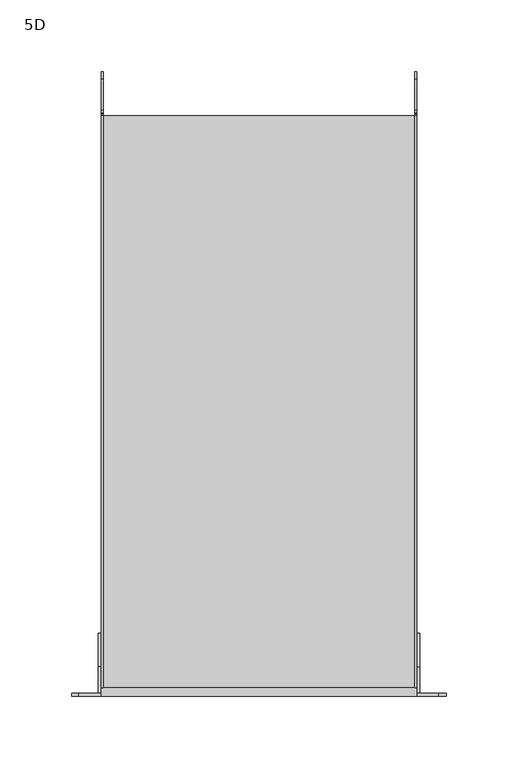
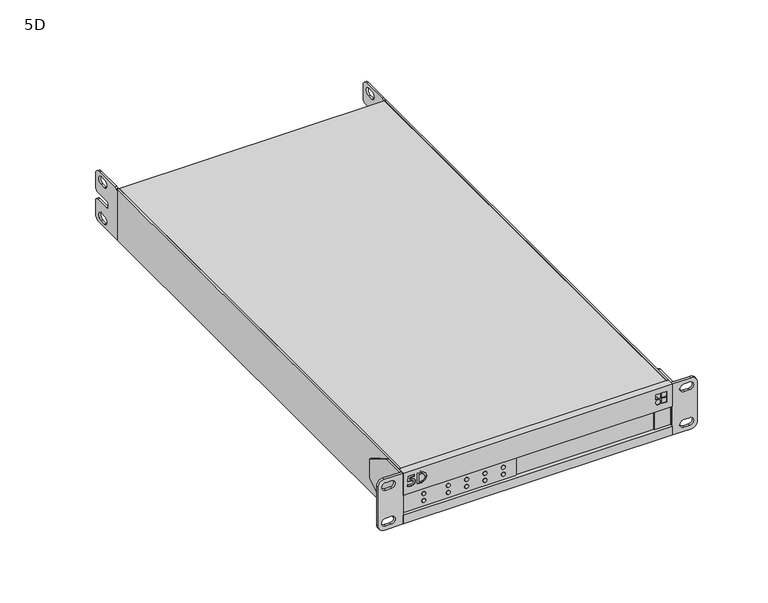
"""IFC4 building model written with IfcOpenShell, lengths in millimetres: proxy geometry, d&b 5D Amplifier : 5D."""

from ifc_helpers import new_model, si_unit, point, frame, frame_2d, origin, origin_with_axes, place, context, project, spatial, polyline, circle_curve, trimmed, segment, composite_curve, outline, extrude, source, transform, mapped, element, save
from ifc_brep_helpers import plane_surface, cylinder_surface, revolved_surface, advanced_brep


def proxy_5d_ee4fdd6d(model_context):
    return source(origin(), model_context, "Body", "SolidModel", [
        extrude(outline(composite_curve([segment(polyline([(185.5829535, 43.9406488), (207.5499232, 43.9406488)]), True, "CONTINUOUS"), segment(trimmed(circle_curve(frame_2d((207.5499232, 38.9406488)), 5.0), [point((207.5499232, 43.9406488))], [point((212.5499232, 38.9406488))], False, "CARTESIAN"), True, "CONTINUOUS"), segment(polyline([(212.5499232, 38.9406488), (212.5499232, 28.0)]), True, "CONTINUOUS"), segment(trimmed(circle_curve(frame_2d((209.5499232, 28.0)), 3.0), [point((212.5499232, 28.0))], [point((209.5499232, 25.0))], False, "CARTESIAN"), True, "CONTINUOUS"), segment(polyline([(209.5499232, 25.0), (197.5499232, 25.0)]), True, "CONTINUOUS"), segment(trimmed(circle_curve(frame_2d((197.5499232, 22.0)), 3.0), [point((197.5499232, 25.0))], [point((197.5499232, 19.0))], True, "CARTESIAN"), True, "CONTINUOUS"), segment(polyline([(197.5499232, 19.0), (209.5499232, 19.0)]), True, "CONTINUOUS"), segment(trimmed(circle_curve(frame_2d((209.5499232, 16.0)), 3.0), [point((209.5499232, 19.0))], [point((212.5499232, 16.0))], False, "CARTESIAN"), True, "CONTINUOUS"), segment(polyline([(212.5499232, 16.0), (212.5499232, 5.0)]), True, "CONTINUOUS"), segment(trimmed(circle_curve(frame_2d((207.5499232, 5.0)), 5.0), [point((212.5499232, 5.0))], [point((207.5499232, 0.0))], False, "CARTESIAN"), True, "CONTINUOUS"), segment(polyline([(207.5499232, 0.0), (182.0499232, 0.0), (182.0499232, 42.7406488), (183.1829535, 42.7406488)]), True, "CONTINUOUS"), segment(trimmed(circle_curve(frame_2d((183.1829535, 43.7406488)), 1.0), [point((183.1829535, 42.7406488))], [point((183.9829535, 43.1406488))], True, "CARTESIAN"), True, "CONTINUOUS"), segment(trimmed(circle_curve(frame_2d((185.5829535, 41.9406488)), 2.0), [point((183.9829535, 43.1406488))], [point((185.5829535, 43.9406488))], False, "CARTESIAN"), True, "CONTINUOUS")], self_intersect=False), holes=[composite_curve([segment(trimmed(circle_curve(frame_2d((204.7999232, 6.25)), 3.25), [point((204.7999232, 3.0))], [point((204.7999232, 9.5))], True, "CARTESIAN"), True, "CONTINUOUS"), segment(polyline([(204.7999232, 9.5), (200.2999232, 9.5)]), True, "CONTINUOUS"), segment(trimmed(circle_curve(frame_2d((200.2999232, 6.25)), 3.25), [point((200.2999232, 9.5))], [point((200.2999232, 3.0))], True, "CARTESIAN"), True, "CONTINUOUS"), segment(polyline([(200.2999232, 3.0), (204.7999232, 3.0)]), True, "CONTINUOUS")], self_intersect=False), composite_curve([segment(trimmed(circle_curve(frame_2d((200.2999232, 37.75)), 3.25), [point((200.2999232, 41.0))], [point((200.2999232, 34.5))], True, "CARTESIAN"), True, "CONTINUOUS"), segment(polyline([(200.2999232, 34.5), (204.7999232, 34.5)]), True, "CONTINUOUS"), segment(trimmed(circle_curve(frame_2d((204.7999232, 37.75)), 3.25), [point((204.7999232, 34.5))], [point((204.7999232, 41.0))], True, "CARTESIAN"), True, "CONTINUOUS"), segment(polyline([(204.7999232, 41.0), (200.2999232, 41.0)]), True, "CONTINUOUS")], self_intersect=False)]), frame((-2.883647, 0.0, 0.0), z_axis=(1.0, 0.0, 0.0), x_axis=(0.0, 1.0, 0.0)), (0.0, 0.0, 1.0), 1.5),
        extrude(outline(composite_curve([segment(polyline([(185.5829535, 43.9406488), (207.5499232, 43.9406488)]), True, "CONTINUOUS"), segment(trimmed(circle_curve(frame_2d((207.5499232, 38.9406488)), 5.0), [point((207.5499232, 43.9406488))], [point((212.5499232, 38.9406488))], False, "CARTESIAN"), True, "CONTINUOUS"), segment(polyline([(212.5499232, 38.9406488), (212.5499232, 28.0)]), True, "CONTINUOUS"), segment(trimmed(circle_curve(frame_2d((209.5499232, 28.0)), 3.0), [point((212.5499232, 28.0))], [point((209.5499232, 25.0))], False, "CARTESIAN"), True, "CONTINUOUS"), segment(polyline([(209.5499232, 25.0), (197.5499232, 25.0)]), True, "CONTINUOUS"), segment(trimmed(circle_curve(frame_2d((197.5499232, 22.0)), 3.0), [point((197.5499232, 25.0))], [point((197.5499232, 19.0))], True, "CARTESIAN"), True, "CONTINUOUS"), segment(polyline([(197.5499232, 19.0), (209.5499232, 19.0)]), True, "CONTINUOUS"), segment(trimmed(circle_curve(frame_2d((209.5499232, 16.0)), 3.0), [point((209.5499232, 19.0))], [point((212.5499232, 16.0))], False, "CARTESIAN"), True, "CONTINUOUS"), segment(polyline([(212.5499232, 16.0), (212.5499232, 5.0)]), True, "CONTINUOUS"), segment(trimmed(circle_curve(frame_2d((207.5499232, 5.0)), 5.0), [point((212.5499232, 5.0))], [point((207.5499232, 0.0))], False, "CARTESIAN"), True, "CONTINUOUS"), segment(polyline([(207.5499232, 0.0), (182.0499232, 0.0), (182.0499232, 42.7406488), (183.1829535, 42.7406488)]), True, "CONTINUOUS"), segment(trimmed(circle_curve(frame_2d((183.1829535, 43.7406488)), 1.0), [point((183.1829535, 42.7406488))], [point((183.9829535, 43.1406488))], True, "CARTESIAN"), True, "CONTINUOUS"), segment(trimmed(circle_curve(frame_2d((185.5829535, 41.9406488)), 2.0), [point((183.9829535, 43.1406488))], [point((185.5829535, 43.9406488))], False, "CARTESIAN"), True, "CONTINUOUS")], self_intersect=False), holes=[composite_curve([segment(trimmed(circle_curve(frame_2d((204.7999232, 6.25)), 3.25), [point((204.7999232, 3.0))], [point((204.7999232, 9.5))], True, "CARTESIAN"), True, "CONTINUOUS"), segment(polyline([(204.7999232, 9.5), (200.2999232, 9.5)]), True, "CONTINUOUS"), segment(trimmed(circle_curve(frame_2d((200.2999232, 6.25)), 3.25), [point((200.2999232, 9.5))], [point((200.2999232, 3.0))], True, "CARTESIAN"), True, "CONTINUOUS"), segment(polyline([(200.2999232, 3.0), (204.7999232, 3.0)]), True, "CONTINUOUS")], self_intersect=False), composite_curve([segment(trimmed(circle_curve(frame_2d((200.2999232, 37.75)), 3.25), [point((200.2999232, 41.0))], [point((200.2999232, 34.5))], True, "CARTESIAN"), True, "CONTINUOUS"), segment(polyline([(200.2999232, 34.5), (204.7999232, 34.5)]), True, "CONTINUOUS"), segment(trimmed(circle_curve(frame_2d((204.7999232, 37.75)), 3.25), [point((204.7999232, 34.5))], [point((204.7999232, 41.0))], True, "CARTESIAN"), True, "CONTINUOUS"), segment(polyline([(204.7999232, 41.0), (200.2999232, 41.0)]), True, "CONTINUOUS")], self_intersect=False)]), frame((-221.330704, 0.0, 0.0), z_axis=(1.0, 0.0, 0.0), x_axis=(0.0, 1.0, 0.0)), (0.0, 0.0, 1.0), 1.5),
        extrude(outline(polyline([(-14.8641212, -216.4500768), (-14.8641212, -218.9005113), (-127.4848246, -218.9005113), (-127.4848246, -216.4500768), (-14.8641212, -216.4500768)])), frame((0.0, 0.0, 7.4401156), z_axis=(0.0, 0.0, 1.0), x_axis=(1.0, 0.0, 0.0)), (0.0, 0.0, 1.0), 17.1349724),
        extrude(outline(polyline([(-219.830704, 182.0499232), (-219.830704, -216.4500768), (-221.330704, -216.4500768), (-221.330704, 182.0499232), (-219.830704, 182.0499232)])), origin_with_axes(), (0.0, 0.0, 1.0), 43.9406488),
        extrude(outline(polyline([(-1.383647, 182.0499232), (-1.383647, -216.4500768), (-2.883647, -216.4500768), (-2.883647, 182.0499232), (-1.383647, 182.0499232)])), origin_with_axes(), (0.0, 0.0, 1.0), 43.9406488),
        advanced_brep(
        [(-1.383647, -222.4500768, 7.4401156), (-1.383647, -222.4500768, 0.0), (-1.383647, -216.4500768, 0.0), (-1.383647, -216.4500768, 43.9406488), (-1.383647, -222.4500768, 43.9406488), (-1.383647, -222.4500768, 24.5750881), (-1.383647, -219.9500768, 24.5750881), (-1.383647, -219.9500768, 7.4401156), (-221.330704, -222.4500768, 43.9406488), (-221.330704, -216.4500768, 43.9406488), (-221.330704, -216.4500768, 24.5750881), (-221.330704, -222.4500768, 24.5750881), (-221.330704, -222.4500768, 7.4401156), (-221.330704, -216.4500768, 7.4401156), (-221.330704, -216.4500768, 0.0), (-221.330704, -222.4500768, 0.0), (-14.8641212, -216.4500768, 7.4401156), (-14.8641212, -216.4500768, 24.5750881), (-209.7824127, -222.4500768, 39.5054393), (-206.5190145, -222.4500768, 39.5054393), (-206.5190145, -222.4500768, 30.5405362), (-209.7824127, -222.4500768, 30.5405362), (-217.0026684, -222.4500768, 39.5054393), (-212.1114808, -222.4500768, 39.5054393), (-212.1114808, -222.4500768, 38.0155348), (-215.6272884, -222.4500768, 38.0155348), (-215.7635554, -222.4500768, 36.4579961), (-214.2558866, -222.4500768, 36.4579961), (-213.19435, -222.4500768, 30.9129936), (-217.7386054, -222.4500768, 31.0936409), (-217.5942324, -222.4500768, 32.7438318), (-213.7483664, -222.4500768, 32.3069326), (-214.2558866, -222.4500768, 34.9579961), (-217.4005181, -222.4500768, 34.9579961), (-15.0897549, -222.4500768, 39.3082376), (-10.8402378, -222.4500768, 39.3082376), (-10.8402378, -222.4500768, 35.0587206), (-15.0897549, -222.4500768, 35.0587206), (-10.233164, -222.4500768, 39.3082376), (-5.983647, -222.4500768, 39.3082376), (-5.983647, -222.4500768, 35.0587206), (-10.233164, -222.4500768, 35.0587206), (-10.233164, -222.4500768, 34.4516467), (-5.983647, -222.4500768, 34.4516467), (-5.983647, -222.4500768, 30.2021297), (-10.233164, -222.4500768, 30.2021297), (-12.9649964, -222.4500768, 34.4516467), (-12.9649964, -222.4500768, 30.2021297), (-208.2824127, -222.4500768, 32.0405362), (-206.5190145, -222.4500768, 32.0405362), (-206.5190145, -222.4500768, 38.0054393), (-208.2824127, -222.4500768, 38.0054393), (-14.8641212, -219.9500768, 24.5750881), (-14.8641212, -219.9500768, 7.4401156), (-206.5190145, -217.4500768, 39.5054393), (-209.7824127, -217.4500768, 39.5054393), (-209.7824127, -217.4500768, 30.5405362), (-206.5190145, -217.4500768, 30.5405362), (-206.5190145, -217.4500768, 32.0405362), (-208.2824127, -217.4500768, 32.0405362), (-208.2824127, -217.4500768, 38.0054393), (-206.5190145, -217.4500768, 38.0054393), (-212.1114808, -217.4500768, 39.5054393), (-217.0026684, -217.4500768, 39.5054393), (-217.4005181, -217.4500768, 34.9579961), (-214.2558866, -217.4500768, 34.9579961), (-213.7483664, -217.4500768, 32.3069326), (-217.5942324, -217.4500768, 32.7438318), (-217.7386054, -217.4500768, 31.0936409), (-213.19435, -217.4500768, 30.9129936), (-214.2558866, -217.4500768, 36.4579961), (-215.7635554, -217.4500768, 36.4579961), (-215.6272884, -217.4500768, 38.0155348), (-212.1114808, -217.4500768, 38.0155348), (-10.8402378, -217.4500768, 39.3082376), (-15.0897549, -217.4500768, 39.3082376), (-15.0897549, -217.4500768, 35.0587206), (-10.8402378, -217.4500768, 35.0587206), (-5.983647, -217.4500768, 39.3082376), (-10.233164, -217.4500768, 39.3082376), (-10.233164, -217.4500768, 35.0587206), (-5.983647, -217.4500768, 35.0587206), (-5.983647, -217.4500768, 34.4516467), (-10.233164, -217.4500768, 34.4516467), (-10.233164, -217.4500768, 30.2021297), (-5.983647, -217.4500768, 30.2021297), (-12.9649964, -217.4500768, 30.2021297), (-12.9649964, -217.4500768, 34.4516467)],
        [
            (0, 1),
            (1, 2),
            (2, 3),
            (3, 4),
            (4, 5),
            (5, 6),
            (6, 7),
            (7, 0),
            (8, 9),
            (9, 10),
            (10, 11),
            (11, 8),
            (12, 13),
            (13, 14),
            (14, 15),
            (15, 12),
            (0, 12),
            (15, 1),
            (14, 2),
            (13, 16),
            (16, 17),
            (17, 10),
            (9, 3),
            (8, 4),
            (11, 5),
            (18, 19),
            (19, 20, circle_curve(frame((-206.5190145, -222.4500768, 35.0229877), z_axis=(0.0, 1.0, 0.0), x_axis=(1.0, 0.0, 0.0)), 4.4824516)),
            (20, 21),
            (21, 18),
            (22, 23),
            (23, 24),
            (24, 25),
            (25, 26),
            (26, 27),
            (27, 28, circle_curve(frame((-214.2558866, -222.4500768, 33.5838844), z_axis=(0.0, 1.0, 0.0), x_axis=(1.0, 0.0, 0.0)), 2.8741117)),
            (28, 29, circle_curve(frame((-215.2631459, -222.4500768, 36.11821), z_axis=(0.0, 1.0, 0.0), x_axis=(1.0, 0.0, 0.0)), 5.6012672)),
            (29, 30),
            (30, 31, circle_curve(frame((-215.2631459, -222.4500768, 36.11821), z_axis=(0.0, -1.0, 0.0), x_axis=(1.0, 0.0, 0.0)), 4.1012672)),
            (31, 32, circle_curve(frame((-214.2558866, -222.4500768, 33.5838844), z_axis=(0.0, -1.0, 0.0), x_axis=(1.0, 0.0, 0.0)), 1.3741117)),
            (32, 33),
            (33, 22),
            (34, 35),
            (35, 36),
            (36, 37),
            (37, 34),
            (38, 39),
            (39, 40),
            (40, 41),
            (41, 38),
            (42, 43),
            (43, 44),
            (44, 45),
            (45, 42),
            (46, 47, circle_curve(frame((-12.9649964, -222.4500768, 32.3268882), z_axis=(0.0, 1.0, 0.0), x_axis=(0.0, 0.0, 1.0)), 2.1247585)),
            (47, 46, circle_curve(frame((-12.9649964, -222.4500768, 32.3268882), z_axis=(0.0, 1.0, 0.0), x_axis=(0.0, 0.0, 1.0)), 2.1247585)),
            (48, 49),
            (49, 50, circle_curve(frame((-206.5190145, -222.4500768, 35.0229877), z_axis=(0.0, -1.0, 0.0), x_axis=(1.0, 0.0, 0.0)), 2.9824516)),
            (50, 51),
            (51, 48),
            (17, 52),
            (52, 6),
            (7, 53),
            (53, 16),
            (53, 52),
            (54, 55),
            (55, 56),
            (56, 57),
            (57, 54, circle_curve(frame((-206.5190145, -217.4500768, 35.0229877), z_axis=(0.0, -1.0, 0.0), x_axis=(1.0, 0.0, 0.0)), 4.4824516)),
            (58, 59),
            (59, 60),
            (60, 61),
            (61, 58, circle_curve(frame((-206.5190145, -217.4500768, 35.0229877), z_axis=(0.0, 1.0, 0.0), x_axis=(1.0, 0.0, 0.0)), 2.9824516)),
            (62, 63),
            (63, 64),
            (64, 65),
            (65, 66, circle_curve(frame((-214.2558866, -217.4500768, 33.5838844), z_axis=(0.0, 1.0, 0.0), x_axis=(1.0, 0.0, 0.0)), 1.3741117)),
            (66, 67, circle_curve(frame((-215.2631459, -217.4500768, 36.11821), z_axis=(0.0, 1.0, 0.0), x_axis=(1.0, 0.0, 0.0)), 4.1012672)),
            (67, 68),
            (68, 69, circle_curve(frame((-215.2631459, -217.4500768, 36.11821), z_axis=(0.0, -1.0, 0.0), x_axis=(1.0, 0.0, 0.0)), 5.6012672)),
            (69, 70, circle_curve(frame((-214.2558866, -217.4500768, 33.5838844), z_axis=(0.0, -1.0, 0.0), x_axis=(1.0, 0.0, 0.0)), 2.8741117)),
            (70, 71),
            (71, 72),
            (72, 73),
            (73, 62),
            (74, 75),
            (75, 76),
            (76, 77),
            (77, 74),
            (78, 79),
            (79, 80),
            (80, 81),
            (81, 78),
            (82, 83),
            (83, 84),
            (84, 85),
            (85, 82),
            (86, 87, circle_curve(frame((-12.9649964, -217.4500768, 32.3268882), z_axis=(0.0, -1.0, 0.0), x_axis=(0.0, 0.0, 1.0)), 2.1247585)),
            (87, 86, circle_curve(frame((-12.9649964, -217.4500768, 32.3268882), z_axis=(0.0, -1.0, 0.0), x_axis=(0.0, 0.0, 1.0)), 2.1247585)),
            (54, 19),
            (18, 55),
            (21, 56),
            (20, 57),
            (58, 49),
            (48, 59),
            (51, 60),
            (50, 61),
            (62, 23),
            (22, 63),
            (33, 64),
            (32, 65),
            (31, 66),
            (30, 67),
            (29, 68),
            (28, 69),
            (27, 70),
            (26, 71),
            (25, 72),
            (24, 73),
            (74, 35),
            (34, 75),
            (37, 76),
            (36, 77),
            (78, 39),
            (38, 79),
            (41, 80),
            (40, 81),
            (82, 43),
            (42, 83),
            (45, 84),
            (44, 85),
            (86, 47),
            (46, 87),
        ],
        [
            plane_surface(frame((-1.383647, -222.4500768, -304.8), z_axis=(1.0, 0.0, 0.0), x_axis=(0.0, 0.0, -1.0))),
            plane_surface(frame((-221.330704, -222.4500768, -304.8), z_axis=(-1.0, 0.0, 0.0), x_axis=(0.0, 0.0, 1.0))),
            plane_surface(frame((-1.383647, -222.4500768, 7.4401156), z_axis=(0.0, -1.0, 0.0), x_axis=(-1.0, 0.0, 0.0))),
            plane_surface(frame((-1.383647, -222.4500768, 0.0), z_axis=(0.0, 0.0, -1.0), x_axis=(-1.0, 0.0, 0.0))),
            plane_surface(frame((-1.383647, -216.4500768, 24.5750881), z_axis=(0.0, 1.0, 0.0), x_axis=(-1.0, 0.0, 0.0))),
            plane_surface(frame((-1.383647, -216.4500768, 43.9406488), z_axis=(0.0, 0.0, 1.0), x_axis=(-1.0, 0.0, 0.0))),
            plane_surface(frame((-1.383647, -222.4500768, 43.9406488), z_axis=(0.0, -1.0, 0.0), x_axis=(-1.0, 0.0, 0.0))),
            plane_surface(frame((-1.383647, -222.4500768, 24.5750881), z_axis=(0.0, 0.0, -1.0), x_axis=(-1.0, 0.0, 0.0))),
            plane_surface(frame((-1.383647, -216.4500768, 7.4401156), z_axis=(0.0, 0.0, 1.0), x_axis=(-1.0, 0.0, 0.0))),
            plane_surface(frame((-14.8641212, -216.4500768, 87.1230012), z_axis=(-1.0, 0.0, 0.0), x_axis=(0.0, 0.0, -1.0))),
            plane_surface(frame((-1.383647, -219.9500768, 24.5750881), z_axis=(0.0, -1.0, 0.0), x_axis=(-1.0, 0.0, 0.0))),
            plane_surface(frame((169.7687193, -217.4500768, 39.3082376), z_axis=(0.0, -1.0, 0.0), x_axis=(1.0, 0.0, 0.0))),
            plane_surface(frame((-206.5190145, -222.4500768, 39.5054393), z_axis=(0.0, 0.0, -1.0), x_axis=(0.0, 1.0, 0.0))),
            plane_surface(frame((-209.7824127, -222.4500768, 39.5054393), z_axis=(1.0, 0.0, 0.0), x_axis=(0.0, 1.0, 0.0))),
            plane_surface(frame((-209.7824127, -222.4500768, 30.5405362), z_axis=(0.0, 0.0, 1.0), x_axis=(0.0, 1.0, 0.0))),
            revolved_surface(polyline([(-202.0365629, -222.4500768, 35.0229877), (-202.0365629, -217.4500768, 35.0229877)]), (-206.5190145, -222.4500768, 35.0229877), (0.0, -1.0, 0.0)),
            plane_surface(frame((-206.5190145, -222.4500768, 32.0405362), z_axis=(0.0, 0.0, -1.0), x_axis=(0.0, 1.0, 0.0))),
            plane_surface(frame((-208.2824127, -222.4500768, 32.0405362), z_axis=(-1.0, 0.0, 0.0), x_axis=(0.0, 1.0, 0.0))),
            plane_surface(frame((-208.2824127, -222.4500768, 38.0054393), z_axis=(0.0, 0.0, 1.0), x_axis=(0.0, 1.0, 0.0))),
            cylinder_surface(frame((-206.5190145, -222.4500768, 35.0229877), z_axis=(0.0, 1.0, 0.0), x_axis=(1.0, 0.0, 0.0)), 2.9824516),
            plane_surface(frame((-212.1114808, -222.4500768, 39.5054393), z_axis=(0.0, 0.0, -1.0), x_axis=(0.0, 1.0, 0.0))),
            plane_surface(frame((-217.0026684, -222.4500768, 39.5054393), z_axis=(0.9961946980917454, 0.0, -0.08715574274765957), x_axis=(0.0, 1.0, 0.0))),
            plane_surface(frame((-217.4005181, -222.4500768, 34.9579961), z_axis=(0.0, 0.0, 1.0), x_axis=(0.0, 1.0, 0.0))),
            cylinder_surface(frame((-214.2558866, -222.4500768, 33.5838844), z_axis=(0.0, 1.0, 0.0), x_axis=(1.0, 0.0, 0.0)), 1.3741117),
            cylinder_surface(frame((-215.2631459, -222.4500768, 36.11821), z_axis=(0.0, 1.0, 0.0), x_axis=(1.0, 0.0, 0.0)), 4.1012672),
            plane_surface(frame((-217.5942324, -222.4500768, 32.7438318), z_axis=(0.996194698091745, 0.0, -0.08715574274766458), x_axis=(0.0, 1.0, 0.0))),
            revolved_surface(polyline([(-209.66187870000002, -222.4500768, 36.11821), (-209.66187870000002, -217.4500768, 36.11821)]), (-215.2631459, -222.4500768, 36.11821), (0.0, -1.0, 0.0)),
            revolved_surface(polyline([(-211.3817749, -222.4500768, 33.5838844), (-211.3817749, -217.4500768, 33.5838844)]), (-214.2558866, -222.4500768, 33.5838844), (0.0, -1.0, 0.0)),
            plane_surface(frame((-214.2558866, -222.4500768, 36.4579961), z_axis=(0.0, 0.0, -1.0), x_axis=(0.0, 1.0, 0.0))),
            plane_surface(frame((-215.7635554, -222.4500768, 36.4579961), z_axis=(-0.9961946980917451, 0.0, 0.08715574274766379), x_axis=(0.0, 1.0, 0.0))),
            plane_surface(frame((-215.6272884, -222.4500768, 38.0155348), z_axis=(0.0, 0.0, 1.0), x_axis=(0.0, 1.0, 0.0))),
            plane_surface(frame((-212.1114808, -222.4500768, 38.0155348), z_axis=(-1.0, 0.0, 0.0), x_axis=(0.0, 1.0, 0.0))),
            plane_surface(frame((-10.8402378, -222.4500768, 39.3082376), z_axis=(0.0, 0.0, -1.0), x_axis=(0.0, 1.0, 0.0))),
            plane_surface(frame((-15.0897549, -222.4500768, 39.3082376), z_axis=(1.0, 0.0, 0.0), x_axis=(0.0, 1.0, 0.0))),
            plane_surface(frame((-15.0897549, -222.4500768, 35.0587206), z_axis=(0.0, 0.0, 1.0), x_axis=(0.0, 1.0, 0.0))),
            plane_surface(frame((-10.8402378, -222.4500768, 35.0587206), z_axis=(-1.0, 0.0, 0.0), x_axis=(0.0, 1.0, 0.0))),
            plane_surface(frame((-5.983647, -222.4500768, 39.3082376), z_axis=(0.0, 0.0, -1.0), x_axis=(0.0, 1.0, 0.0))),
            plane_surface(frame((-10.233164, -222.4500768, 39.3082376), z_axis=(1.0, 0.0, 0.0), x_axis=(0.0, 1.0, 0.0))),
            plane_surface(frame((-10.233164, -222.4500768, 35.0587206), z_axis=(0.0, 0.0, 1.0), x_axis=(0.0, 1.0, 0.0))),
            plane_surface(frame((-5.983647, -222.4500768, 35.0587206), z_axis=(-1.0, 0.0, 0.0), x_axis=(0.0, 1.0, 0.0))),
            plane_surface(frame((-5.983647, -222.4500768, 34.4516467), z_axis=(0.0, 0.0, -1.0), x_axis=(0.0, 1.0, 0.0))),
            plane_surface(frame((-10.233164, -222.4500768, 34.4516467), z_axis=(1.0, 0.0, 0.0), x_axis=(0.0, 1.0, 0.0))),
            plane_surface(frame((-10.233164, -222.4500768, 30.2021297), z_axis=(0.0, 0.0, 1.0), x_axis=(0.0, 1.0, 0.0))),
            plane_surface(frame((-5.983647, -222.4500768, 30.2021297), z_axis=(-1.0, 0.0, 0.0), x_axis=(0.0, 1.0, 0.0))),
            revolved_surface(polyline([(-12.9649964, -222.4500768, 34.4516467), (-12.9649964, -217.4500768, 34.4516467)]), (-12.9649964, -222.4500768, 32.3268882), (0.0, -1.0, 0.0)),
        ],
        [
            (0, [[1, 2, 3, 4, 5, 6, 7, 8]]),
            (1, [[9, 10, 11, 12]]),
            (1, [[13, 14, 15, 16]]),
            (2, [[-1, 17, -16, 18]]),
            (3, [[-2, -18, -15, 19]]),
            (4, [[-3, -19, -14, 20, 21, 22, -10, 23]]),
            (5, [[-4, -23, -9, 24]]),
            (6, [[-5, -24, -12, 25], [26, 27, 28, 29], [30, 31, 32, 33, 34, 35, 36, 37, 38, 39, 40, 41], [42, 43, 44, 45], [46, 47, 48, 49], [50, 51, 52, 53], [54, 55]]),
            (6, [[56, 57, 58, 59]]),
            (7, [[-11, -22, 60, 61, -6, -25]]),
            (8, [[-13, -17, -8, 62, 63, -20]]),
            (9, [[64, -60, -21, -63]]),
            (10, [[-7, -61, -64, -62]]),
            (11, [[65, 66, 67, 68], [69, 70, 71, 72]]),
            (11, [[73, 74, 75, 76, 77, 78, 79, 80, 81, 82, 83, 84]]),
            (11, [[85, 86, 87, 88]]),
            (11, [[89, 90, 91, 92]]),
            (11, [[93, 94, 95, 96]]),
            (11, [[97, 98]]),
            (12, [[-65, 99, -26, 100]]),
            (13, [[-66, -100, -29, 101]]),
            (14, [[-67, -101, -28, 102]]),
            (15, [[-68, -102, -27, -99]]),
            (16, [[-69, 103, -56, 104]]),
            (17, [[-70, -104, -59, 105]]),
            (18, [[-71, -105, -58, 106]]),
            (19, [[-72, -106, -57, -103]]),
            (20, [[-73, 107, -30, 108]]),
            (21, [[-74, -108, -41, 109]]),
            (22, [[-75, -109, -40, 110]]),
            (23, [[-76, -110, -39, 111]]),
            (24, [[-77, -111, -38, 112]]),
            (25, [[-78, -112, -37, 113]]),
            (26, [[-79, -113, -36, 114]]),
            (27, [[-80, -114, -35, 115]]),
            (28, [[-81, -115, -34, 116]]),
            (29, [[-82, -116, -33, 117]]),
            (30, [[-83, -117, -32, 118]]),
            (31, [[-84, -118, -31, -107]]),
            (32, [[-85, 119, -42, 120]]),
            (33, [[-86, -120, -45, 121]]),
            (34, [[-87, -121, -44, 122]]),
            (35, [[-88, -122, -43, -119]]),
            (36, [[-89, 123, -46, 124]]),
            (37, [[-90, -124, -49, 125]]),
            (38, [[-91, -125, -48, 126]]),
            (39, [[-92, -126, -47, -123]]),
            (40, [[-93, 127, -50, 128]]),
            (41, [[-94, -128, -53, 129]]),
            (42, [[-95, -129, -52, 130]]),
            (43, [[-96, -130, -51, -127]]),
            (44, [[-97, 131, -54, 132]]),
            (44, [[-98, -132, -55, -131]]),
        ],
    ),
        extrude(outline(polyline([(-2.883647, 182.0499232), (-2.883647, -216.4500768), (-219.830704, -216.4500768), (-219.830704, 182.0499232), (-2.883647, 182.0499232)])), origin_with_axes(), (0.0, 0.0, 1.0), 43.9406488),
        extrude(outline(composite_curve([segment(polyline([(5.0, 19.0253736), (38.9406488, 19.0253736)]), True, "CONTINUOUS"), segment(trimmed(circle_curve(frame_2d((38.9406488, 14.0253736)), 5.0), [point((38.9406488, 19.0253736))], [point((43.9406488, 14.0253736))], False, "CARTESIAN"), True, "CONTINUOUS"), segment(polyline([(43.9406488, 14.0253736), (43.9406488, -1.383647), (0.0, -1.383647), (0.0, 14.0253736)]), True, "CONTINUOUS"), segment(trimmed(circle_curve(frame_2d((5.0, 14.0253736)), 5.0), [point((0.0, 14.0253736))], [point((5.0, 19.0253736))], False, "CARTESIAN"), True, "CONTINUOUS")], self_intersect=False), holes=[composite_curve([segment(polyline([(9.8271522, 8.2512066), (9.8271522, 12.7511409)]), True, "CONTINUOUS"), segment(trimmed(circle_curve(frame_2d((6.5771997, 12.7511409)), 3.2499525), [point((9.8271522, 12.7511409))], [point((3.3272472, 12.7511409))], True, "CARTESIAN"), True, "CONTINUOUS"), segment(polyline([(3.3272472, 12.7511409), (3.3272472, 8.2512066)]), True, "CONTINUOUS"), segment(trimmed(circle_curve(frame_2d((6.5771997, 8.2512066)), 3.2499525), [point((3.3272472, 8.2512066))], [point((9.8271522, 8.2512066))], True, "CARTESIAN"), True, "CONTINUOUS")], self_intersect=False), composite_curve([segment(trimmed(circle_curve(frame_2d((37.3980037, 8.2512066)), 3.2499525), [point((34.1480512, 8.2512066))], [point((40.6479563, 8.2512066))], True, "CARTESIAN"), True, "CONTINUOUS"), segment(polyline([(40.6479563, 8.2512066), (40.6479563, 12.7511409)]), True, "CONTINUOUS"), segment(trimmed(circle_curve(frame_2d((37.3980037, 12.7511409)), 3.2499525), [point((40.6479563, 12.7511409))], [point((34.1480512, 12.7511409))], True, "CARTESIAN"), True, "CONTINUOUS"), segment(polyline([(34.1480512, 12.7511409), (34.1480512, 8.2512066)]), True, "CONTINUOUS")], self_intersect=False)]), frame((0.0, -222.4500768, 0.0), z_axis=(0.0, 1.0, 0.0), x_axis=(0.0, 0.0, 1.0)), (0.0, 0.0, 1.0), 2.0),
        extrude(outline(composite_curve([segment(trimmed(circle_curve(frame_2d((5.0, -236.7397245)), 5.0), [point((5.0, -241.7397245))], [point((0.0, -236.7397245))], False, "CARTESIAN"), True, "CONTINUOUS"), segment(polyline([(0.0, -236.7397245), (0.0, -221.330704), (43.9406488, -221.330704), (43.9406488, -236.7397245)]), True, "CONTINUOUS"), segment(trimmed(circle_curve(frame_2d((38.9406488, -236.7397245)), 5.0), [point((43.9406488, -236.7397245))], [point((38.9406488, -241.7397245))], False, "CARTESIAN"), True, "CONTINUOUS"), segment(polyline([(38.9406488, -241.7397245), (5.0, -241.7397245)]), True, "CONTINUOUS")], self_intersect=False), holes=[composite_curve([segment(trimmed(circle_curve(frame_2d((6.5771997, -230.9655576)), 3.2499525), [point((9.8271522, -230.9655576))], [point((3.3272472, -230.9655576))], True, "CARTESIAN"), True, "CONTINUOUS"), segment(polyline([(3.3272472, -230.9655576), (3.3272472, -235.4654919)]), True, "CONTINUOUS"), segment(trimmed(circle_curve(frame_2d((6.5771997, -235.4654919)), 3.2499525), [point((3.3272472, -235.4654919))], [point((9.8271522, -235.4654919))], True, "CARTESIAN"), True, "CONTINUOUS"), segment(polyline([(9.8271522, -235.4654919), (9.8271522, -230.9655576)]), True, "CONTINUOUS")], self_intersect=False), composite_curve([segment(polyline([(34.1480512, -230.9655576), (34.1480512, -235.4654919)]), True, "CONTINUOUS"), segment(trimmed(circle_curve(frame_2d((37.3980037, -235.4654919)), 3.2499525), [point((34.1480512, -235.4654919))], [point((40.6479563, -235.4654919))], True, "CARTESIAN"), True, "CONTINUOUS"), segment(polyline([(40.6479563, -235.4654919), (40.6479563, -230.9655576)]), True, "CONTINUOUS"), segment(trimmed(circle_curve(frame_2d((37.3980037, -230.9655576)), 3.2499525), [point((40.6479563, -230.9655576))], [point((34.1480512, -230.9655576))], True, "CARTESIAN"), True, "CONTINUOUS")], self_intersect=False)]), frame((0.0, -222.4500768, 0.0), z_axis=(0.0, 1.0, 0.0), x_axis=(0.0, 0.0, 1.0)), (0.0, 0.0, 1.0), 2.0),
        extrude(outline(polyline([(-127.4848246, -219.9500768), (-221.330704, -219.9500768), (-221.330704, -216.4500768), (-127.4848246, -216.4500768), (-127.4848246, -219.9500768)])), frame((0.0, 0.0, 7.4401156), z_axis=(0.0, 0.0, 1.0), x_axis=(1.0, 0.0, 0.0)), (0.0, 0.0, 1.0), 17.1349724),
        extrude(outline(polyline([(-10.8402378, -222.4500768), (-15.0897549, -222.4500768), (-15.0897549, -217.4500768), (-10.8402378, -217.4500768), (-10.8402378, -222.4500768)])), frame((0.0, 0.0, 35.0587206), z_axis=(0.0, 0.0, 1.0), x_axis=(1.0, 0.0, 0.0)), (0.0, 0.0, 1.0), 4.249517),
        extrude(outline(polyline([(-5.983647, -222.4500768), (-10.233164, -222.4500768), (-10.233164, -217.4500768), (-5.983647, -217.4500768), (-5.983647, -222.4500768)])), frame((0.0, 0.0, 35.0587206), z_axis=(0.0, 0.0, 1.0), x_axis=(1.0, 0.0, 0.0)), (0.0, 0.0, 1.0), 4.249517),
        extrude(outline(polyline([(-5.983647, -222.4500768), (-10.233164, -222.4500768), (-10.233164, -217.4500768), (-5.983647, -217.4500768), (-5.983647, -222.4500768)])), frame((0.0, 0.0, 30.2021297), z_axis=(0.0, 0.0, 1.0), x_axis=(1.0, 0.0, 0.0)), (0.0, 0.0, 1.0), 4.249517),
        extrude(outline(composite_curve([segment(trimmed(circle_curve(frame_2d((32.3268882, -12.9649964)), 2.1247585), [point((30.2021297, -12.9649964))], [point((34.4516467, -12.9649964))], False, "CARTESIAN"), True, "CONTINUOUS"), segment(trimmed(circle_curve(frame_2d((32.3268882, -12.9649964)), 2.1247585), [point((34.4516467, -12.9649964))], [point((30.2021297, -12.9649964))], False, "CARTESIAN"), True, "CONTINUOUS")], self_intersect=False)), frame((0.0, -222.4500768, 0.0), z_axis=(0.0, 1.0, 0.0), x_axis=(0.0, 0.0, 1.0)), (0.0, 0.0, 1.0), 5.0),
        extrude(outline(composite_curve([segment(polyline([(39.5054393, -206.5190145), (39.5054393, -209.7824127), (30.5405362, -209.7824127), (30.5405362, -206.5190145)]), True, "CONTINUOUS"), segment(trimmed(circle_curve(frame_2d((35.0229877, -206.5190145)), 4.4824516), [point((30.5405362, -206.5190145))], [point((39.5054393, -206.5190145))], False, "CARTESIAN"), True, "CONTINUOUS")], self_intersect=False), holes=[composite_curve([segment(polyline([(32.0405362, -206.5190145), (32.0405362, -208.2824127), (38.0054393, -208.2824127), (38.0054393, -206.5190145)]), True, "CONTINUOUS"), segment(trimmed(circle_curve(frame_2d((35.0229877, -206.5190145)), 2.9824516), [point((38.0054393, -206.5190145))], [point((32.0405362, -206.5190145))], True, "CARTESIAN"), True, "CONTINUOUS")], self_intersect=False)]), frame((0.0, -222.4500768, 0.0), z_axis=(0.0, 1.0, 0.0), x_axis=(0.0, 0.0, 1.0)), (0.0, 0.0, 1.0), 5.0),
        extrude(outline(composite_curve([segment(polyline([(39.5054393, -212.1114808), (39.5054393, -217.0026684), (34.9579961, -217.4005181), (34.9579961, -214.2558866)]), True, "CONTINUOUS"), segment(trimmed(circle_curve(frame_2d((33.5838844, -214.2558866)), 1.3741117), [point((34.9579961, -214.2558866))], [point((32.3069326, -213.7483664))], True, "CARTESIAN"), True, "CONTINUOUS"), segment(trimmed(circle_curve(frame_2d((36.11821, -215.2631459)), 4.1012672), [point((32.3069326, -213.7483664))], [point((32.7438318, -217.5942324))], True, "CARTESIAN"), True, "CONTINUOUS"), segment(polyline([(32.7438318, -217.5942324), (31.0936409, -217.7386054)]), True, "CONTINUOUS"), segment(trimmed(circle_curve(frame_2d((36.11821, -215.2631459)), 5.6012672), [point((31.0936409, -217.7386054))], [point((30.9129936, -213.19435))], False, "CARTESIAN"), True, "CONTINUOUS"), segment(trimmed(circle_curve(frame_2d((33.5838844, -214.2558866)), 2.8741117), [point((30.9129936, -213.19435))], [point((36.4579961, -214.2558866))], False, "CARTESIAN"), True, "CONTINUOUS"), segment(polyline([(36.4579961, -214.2558866), (36.4579961, -215.7635554), (38.0155348, -215.6272884), (38.0155348, -212.1114808), (39.5054393, -212.1114808)]), True, "CONTINUOUS")], self_intersect=False)), frame((0.0, -222.4500768, 0.0), z_axis=(0.0, 1.0, 0.0), x_axis=(0.0, 0.0, 1.0)), (0.0, 0.0, 1.0), 5.0),
        extrude(outline(polyline([(-201.8467618, 43.9406488), (-178.4500768, 30.5), (-178.4500768, 13.5), (-201.9500768, 0.0), (-220.4500768, 0.0), (-220.4500768, 43.9406488), (-201.8467618, 43.9406488)])), frame((-1.383647, 0.0, 0.0), z_axis=(1.0, 0.0, 0.0), x_axis=(0.0, 1.0, 0.0)), (0.0, 0.0, 1.0), 2.0),
        extrude(outline(polyline([(-201.8467618, 43.9406488), (-178.4500768, 30.5), (-178.4500768, 13.5), (-201.9500768, 0.0), (-220.4500768, 0.0), (-220.4500768, 43.9406488), (-201.8467618, 43.9406488)])), frame((-223.330704, 0.0, 0.0), z_axis=(1.0, 0.0, 0.0), x_axis=(0.0, 1.0, 0.0)), (0.0, 0.0, 1.0), 2.0),
        extrude(outline(composite_curve([segment(trimmed(circle_curve(frame_2d((12.9920152, -138.4616444)), 1.5529175), [point((12.9920152, -140.0145619))], [point((12.9920152, -136.9087269))], False, "CARTESIAN"), True, "CONTINUOUS"), segment(trimmed(circle_curve(frame_2d((12.9920152, -138.4616444)), 1.5529175), [point((12.9920152, -136.9087269))], [point((12.9920152, -140.0145619))], False, "CARTESIAN"), True, "CONTINUOUS")], self_intersect=False)), frame((0.0, -220.9500768, 0.0), z_axis=(0.0, 1.0, 0.0), x_axis=(0.0, 0.0, 1.0)), (0.0, 0.0, 1.0), 1.0),
        extrude(outline(composite_curve([segment(trimmed(circle_curve(frame_2d((19.0031846, -138.4616444)), 1.5529175), [point((19.0031846, -140.0145619))], [point((19.0031846, -136.9087269))], False, "CARTESIAN"), True, "CONTINUOUS"), segment(trimmed(circle_curve(frame_2d((19.0031846, -138.4616444)), 1.5529175), [point((19.0031846, -136.9087269))], [point((19.0031846, -140.0145619))], False, "CARTESIAN"), True, "CONTINUOUS")], self_intersect=False)), frame((0.0, -220.9500768, 0.0), z_axis=(0.0, 1.0, 0.0), x_axis=(0.0, 0.0, 1.0)), (0.0, 0.0, 1.0), 1.0),
        extrude(outline(composite_curve([segment(trimmed(circle_curve(frame_2d((12.9920152, -153.4525064)), 1.5529175), [point((12.9920152, -155.0054239))], [point((12.9920152, -151.899589))], False, "CARTESIAN"), True, "CONTINUOUS"), segment(trimmed(circle_curve(frame_2d((12.9920152, -153.4525064)), 1.5529175), [point((12.9920152, -151.899589))], [point((12.9920152, -155.0054239))], False, "CARTESIAN"), True, "CONTINUOUS")], self_intersect=False)), frame((0.0, -220.9500768, 0.0), z_axis=(0.0, 1.0, 0.0), x_axis=(0.0, 0.0, 1.0)), (0.0, 0.0, 1.0), 1.0),
        extrude(outline(composite_curve([segment(trimmed(circle_curve(frame_2d((19.0031846, -153.4525064)), 1.5529175), [point((19.0031846, -155.0054239))], [point((19.0031846, -151.899589))], False, "CARTESIAN"), True, "CONTINUOUS"), segment(trimmed(circle_curve(frame_2d((19.0031846, -153.4525064)), 1.5529175), [point((19.0031846, -151.899589))], [point((19.0031846, -155.0054239))], False, "CARTESIAN"), True, "CONTINUOUS")], self_intersect=False)), frame((0.0, -220.9500768, 0.0), z_axis=(0.0, 1.0, 0.0), x_axis=(0.0, 0.0, 1.0)), (0.0, 0.0, 1.0), 1.0),
        extrude(outline(composite_curve([segment(trimmed(circle_curve(frame_2d((12.9920152, -168.4612061)), 1.5529175), [point((12.9920152, -170.0141236))], [point((12.9920152, -166.9082886))], False, "CARTESIAN"), True, "CONTINUOUS"), segment(trimmed(circle_curve(frame_2d((12.9920152, -168.4612061)), 1.5529175), [point((12.9920152, -166.9082886))], [point((12.9920152, -170.0141236))], False, "CARTESIAN"), True, "CONTINUOUS")], self_intersect=False)), frame((0.0, -220.9500768, 0.0), z_axis=(0.0, 1.0, 0.0), x_axis=(0.0, 0.0, 1.0)), (0.0, 0.0, 1.0), 1.0),
        extrude(outline(composite_curve([segment(trimmed(circle_curve(frame_2d((19.0031846, -168.4612061)), 1.5529175), [point((19.0031846, -170.0141236))], [point((19.0031846, -166.9082886))], False, "CARTESIAN"), True, "CONTINUOUS"), segment(trimmed(circle_curve(frame_2d((19.0031846, -168.4612061)), 1.5529175), [point((19.0031846, -166.9082886))], [point((19.0031846, -170.0141236))], False, "CARTESIAN"), True, "CONTINUOUS")], self_intersect=False)), frame((0.0, -220.9500768, 0.0), z_axis=(0.0, 1.0, 0.0), x_axis=(0.0, 0.0, 1.0)), (0.0, 0.0, 1.0), 1.0),
        extrude(outline(composite_curve([segment(trimmed(circle_curve(frame_2d((12.9920152, -183.460987)), 1.5529175), [point((12.9920152, -185.0139045))], [point((12.9920152, -181.9080695))], False, "CARTESIAN"), True, "CONTINUOUS"), segment(trimmed(circle_curve(frame_2d((12.9920152, -183.460987)), 1.5529175), [point((12.9920152, -181.9080695))], [point((12.9920152, -185.0139045))], False, "CARTESIAN"), True, "CONTINUOUS")], self_intersect=False)), frame((0.0, -220.9500768, 0.0), z_axis=(0.0, 1.0, 0.0), x_axis=(0.0, 0.0, 1.0)), (0.0, 0.0, 1.0), 1.0),
        extrude(outline(composite_curve([segment(trimmed(circle_curve(frame_2d((19.0031846, -183.460987)), 1.5529175), [point((19.0031846, -185.0139045))], [point((19.0031846, -181.9080695))], False, "CARTESIAN"), True, "CONTINUOUS"), segment(trimmed(circle_curve(frame_2d((19.0031846, -183.460987)), 1.5529175), [point((19.0031846, -181.9080695))], [point((19.0031846, -185.0139045))], False, "CARTESIAN"), True, "CONTINUOUS")], self_intersect=False)), frame((0.0, -220.9500768, 0.0), z_axis=(0.0, 1.0, 0.0), x_axis=(0.0, 0.0, 1.0)), (0.0, 0.0, 1.0), 1.0),
        extrude(outline(composite_curve([segment(trimmed(circle_curve(frame_2d((19.0031846, -203.4606948)), 1.5529175), [point((19.0031846, -205.0136123))], [point((19.0031846, -201.9077773))], False, "CARTESIAN"), True, "CONTINUOUS"), segment(trimmed(circle_curve(frame_2d((19.0031846, -203.4606948)), 1.5529175), [point((19.0031846, -201.9077773))], [point((19.0031846, -205.0136123))], False, "CARTESIAN"), True, "CONTINUOUS")], self_intersect=False)), frame((0.0, -220.9500768, 0.0), z_axis=(0.0, 1.0, 0.0), x_axis=(0.0, 0.0, 1.0)), (0.0, 0.0, 1.0), 1.0),
        extrude(outline(composite_curve([segment(trimmed(circle_curve(frame_2d((12.9920152, -203.4606948)), 1.5529175), [point((12.9920152, -205.0136123))], [point((12.9920152, -201.9077773))], False, "CARTESIAN"), True, "CONTINUOUS"), segment(trimmed(circle_curve(frame_2d((12.9920152, -203.4606948)), 1.5529175), [point((12.9920152, -201.9077773))], [point((12.9920152, -205.0136123))], False, "CARTESIAN"), True, "CONTINUOUS")], self_intersect=False)), frame((0.0, -220.9500768, 0.0), z_axis=(0.0, 1.0, 0.0), x_axis=(0.0, 0.0, 1.0)), (0.0, 0.0, 1.0), 1.0),
    ])


if __name__ == "__main__":
    model = new_model("IFC4")
    model_context = context("Model", 3, world=origin())
    ifc_project = project(units=[si_unit("LENGTHUNIT", "METRE", prefix="MILLI")], contexts=[model_context])
    site = spatial("IfcSite", under=ifc_project)
    building = spatial("IfcBuilding", under=site)
    placement = place(None, origin())
    proxy_5d_shape = proxy_5d_ee4fdd6d(model_context)
    element("IfcBuildingElementProxy", 1, Name="d&b 5D Amplifier : 5D", ObjectType="d&b 5D Amplifier : 5D", at=placement, inside=building, context=model_context, shape_type="MappedRepresentation", body=[
        mapped(proxy_5d_shape, transform((0.0, 0.0, 0.0), x_axis=(1.0, 0.0, 0.0), y_axis=(0.0, 1.0, 0.0), z_axis=(0.0, 0.0, 1.0))),
    ])
    save(model, "model.ifc")
